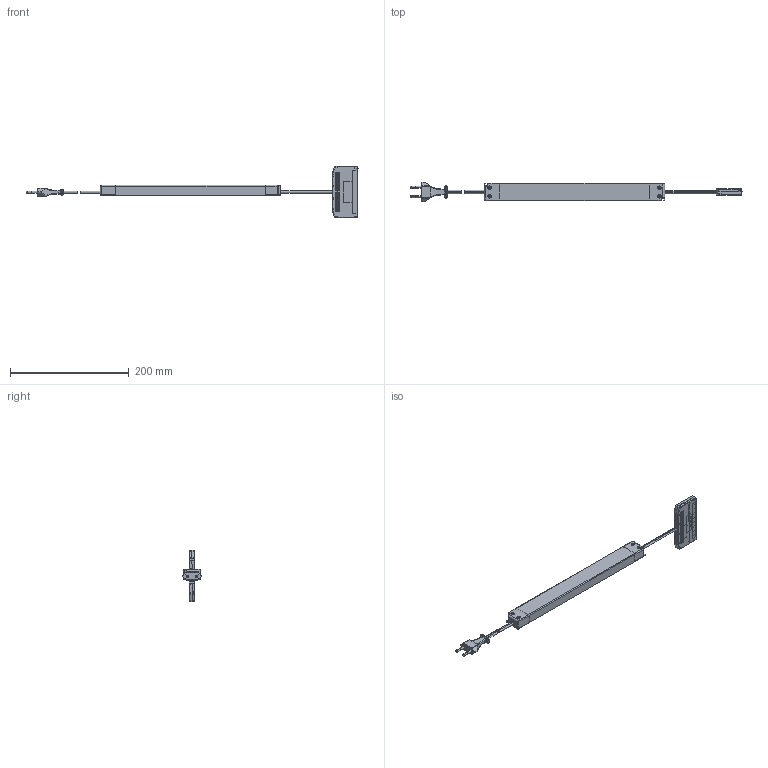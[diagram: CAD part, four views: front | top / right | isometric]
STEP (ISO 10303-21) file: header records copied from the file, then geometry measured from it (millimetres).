
FILE_DESCRIPTION (( 'STEP AP203' ), '1' );
FILE_NAME ('LED_EVG_12VDC_60W_24.STEP', '2024-12-03T12:05:18', ( '' ), ( '' ), 'SwSTEP 2.0', 'SolidWorks 2023', '' );
FILE_SCHEMA (( 'CONFIG_CONTROL_DESIGN' ));
Length unit declared in the file: millimetre
Products named in the file (11): Gehaeuse_9-fach_Verteiler_OT; Mini_Buchse_LED_sw_zum_Anloeten_ohne Führung; HAL60-12VF_S; Transducer MC33164_Beine kurz; Gehaeuse_9-fach_Verteiler_UT; 3102901_Pr2756_LED_9_fach_Verteiler_Zuleitung; Euroflachstecker_DAM_L=180mm; PCB_Funkempfaenger_9-fach_Verteiler_sw; LED_EVG_12VDC_60W_24; 3102901_Pr2756_LED_9_fach_Verteiler_mit_Ueberlastungsschutz_Schutz_12VDC; PCB_Funkempfaenger_9-fach_Verteiler
Assembly tree (20 placements, depth 4):
  LED_EVG_12VDC_60W_24
    HAL60-12VF_S
    Euroflachstecker_DAM_L=180mm
    3102901_Pr2756_LED_9_fach_Verteiler_mit_Ueberlastungsschutz_Schutz_12VDC
      Gehaeuse_9-fach_Verteiler_UT
      Gehaeuse_9-fach_Verteiler_OT
      PCB_Funkempfaenger_9-fach_Verteiler_sw
        PCB_Funkempfaenger_9-fach_Verteiler
        Transducer MC33164_Beine kurz  x3
        Mini_Buchse_LED_sw_zum_Anloeten_ohne Führung  x9
      3102901_Pr2756_LED_9_fach_Verteiler_Zuleitung
Bounding box: 560.21 x 33.06 x 86.62 mm (x, y, z)
Volume: 181972.8 mm3; surface area: 72408 mm2
Topology: 20 solids, 20 shells, 1905 faces, 5085 edges, 3239 vertices
Faces by surface type: plane 1195, cylinder 507, torus 133, bspline 41, sphere 29
Entity records: 41938 total; most frequent: CARTESIAN_POINT 9892, ORIENTED_EDGE 6576, DIRECTION 6079, EDGE_CURVE 3288, VECTOR 2197, LINE 2197, VERTEX_POINT 2086, AXIS2_PLACEMENT_3D 1941
